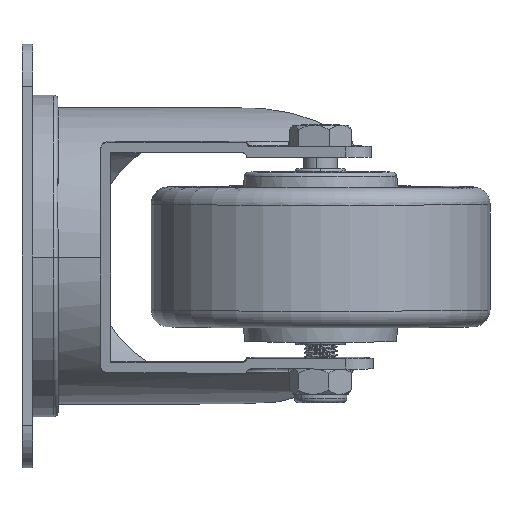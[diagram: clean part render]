
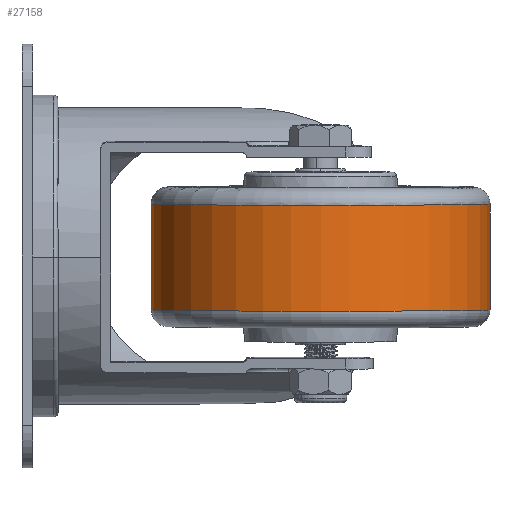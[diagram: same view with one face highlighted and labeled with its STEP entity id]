
A CAD part, left-side view. The second image highlights one B-rep face of the part: STEP entity #27158.
In plain terms, the highlighted cylindrical face has radius 40 mm (diameter 80 mm), a partial arc.
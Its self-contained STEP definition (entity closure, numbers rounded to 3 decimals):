
#3618 = CARTESIAN_POINT ( 'NONE',  ( 0., -12.5, 40. ) ) ;
#4199 = VECTOR ( 'NONE', #13216, 1000. ) ;
#5656 = ORIENTED_EDGE ( 'NONE', *, *, #40057, .F. ) ;
#9798 = VERTEX_POINT ( 'NONE', #30670 ) ;
#9888 = DIRECTION ( 'NONE',  ( 0., 0., -1. ) ) ;
#10504 = LINE ( 'NONE', #10704, #4199 ) ;
#10704 = CARTESIAN_POINT ( 'NONE',  ( 0., 0., 40. ) ) ;
#11132 = ORIENTED_EDGE ( 'NONE', *, *, #39887, .F. ) ;
#11827 = CARTESIAN_POINT ( 'NONE',  ( 0., 12.5, -40. ) ) ;
#13216 = DIRECTION ( 'NONE',  ( 0., -1., 0. ) ) ;
#14814 = CARTESIAN_POINT ( 'NONE',  ( 0., 12.5, 0. ) ) ;
#15072 = DIRECTION ( 'NONE',  ( 0., 0., -1. ) ) ;
#15201 = AXIS2_PLACEMENT_3D ( 'NONE', #14814, #24996, #40203 ) ;
#15927 = VERTEX_POINT ( 'NONE', #3618 ) ;
#17778 = CARTESIAN_POINT ( 'NONE',  ( 0., 0., 0. ) ) ;
#18801 = CARTESIAN_POINT ( 'NONE',  ( 0., -12.5, -40. ) ) ;
#18844 = CIRCLE ( 'NONE', #40780, 40. ) ;
#19849 = CIRCLE ( 'NONE', #15201, 40. ) ;
#21123 = AXIS2_PLACEMENT_3D ( 'NONE', #17778, #30478, #15072 ) ;
#22342 = ORIENTED_EDGE ( 'NONE', *, *, #29717, .T. ) ;
#23808 = FACE_OUTER_BOUND ( 'NONE', #28738, .T. ) ;
#24543 = VECTOR ( 'NONE', #41182, 1000. ) ;
#24736 = LINE ( 'NONE', #28475, #24543 ) ;
#24996 = DIRECTION ( 'NONE',  ( 0., -1., 0. ) ) ;
#25304 = DIRECTION ( 'NONE',  ( 0., -1., 0. ) ) ;
#27158 = ADVANCED_FACE ( 'NONE', ( #23808 ), #39838, .T. ) ;
#27629 = EDGE_CURVE ( 'NONE', #9798, #37800, #19849, .T. ) ;
#28475 = CARTESIAN_POINT ( 'NONE',  ( 0., 0., -40. ) ) ;
#28738 = EDGE_LOOP ( 'NONE', ( #5656, #29509, #22342, #11132 ) ) ;
#29509 = ORIENTED_EDGE ( 'NONE', *, *, #27629, .T. ) ;
#29717 = EDGE_CURVE ( 'NONE', #37800, #39298, #24736, .T. ) ;
#30478 = DIRECTION ( 'NONE',  ( 0., -1., 0. ) ) ;
#30670 = CARTESIAN_POINT ( 'NONE',  ( 0., 12.5, 40. ) ) ;
#32178 = CARTESIAN_POINT ( 'NONE',  ( 0., -12.5, 0. ) ) ;
#37800 = VERTEX_POINT ( 'NONE', #11827 ) ;
#39298 = VERTEX_POINT ( 'NONE', #18801 ) ;
#39838 = CYLINDRICAL_SURFACE ( 'NONE', #21123, 40. ) ;
#39887 = EDGE_CURVE ( 'NONE', #15927, #39298, #18844, .T. ) ;
#40057 = EDGE_CURVE ( 'NONE', #9798, #15927, #10504, .T. ) ;
#40203 = DIRECTION ( 'NONE',  ( 0., 0., -1. ) ) ;
#40780 = AXIS2_PLACEMENT_3D ( 'NONE', #32178, #25304, #9888 ) ;
#41182 = DIRECTION ( 'NONE',  ( 0., -1., 0. ) ) ;
